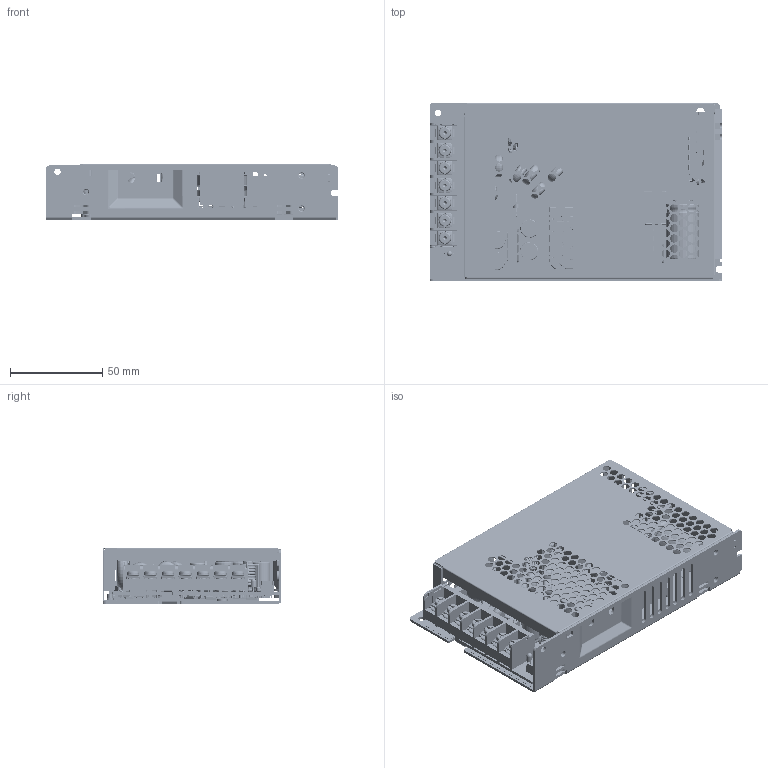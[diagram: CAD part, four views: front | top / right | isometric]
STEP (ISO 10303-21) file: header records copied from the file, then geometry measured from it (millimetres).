
FILE_DESCRIPTION((''),'2;1');
FILE_NAME('PMR-12V240W1ATR2C0_ASM','2022-12-30T13:38:47',('EUNICE.HUANG'),(''),'CREO PARAMETRIC BY PTC INC, 2020053','CREO PARAMETRIC BY PTC INC, 2020053','');
FILE_SCHEMA(('CONFIG_CONTROL_DESIGN','GEOMETRIC_VALIDATION_PROPERTIES_MIM'));
Products named in the file (478): BOARD; 242502801408; D102_ASM; D101_ASM; 3411010600; J105_ASM; 3411010700; J104_ASM; J103_ASM; J22_ASM; 3411010800; J21_ASM; J20_ASM; 3411010500; J19_ASM; J17_ASM; J14_ASM; J7_ASM; 3411010400; J6_ASM; J5_ASM; J4_ASM; J1_ASM; 1732158583; C4_ASM; 140152210128; C37_ASM; 17Z1012073; C2_ASM; 51826600R0_1; CORE-EQ3319_1; WIRE_4; WIRE-1_2; OUTERSHIELD_3; OUTERTAPE_5; 51826600R0_ASM_10_ASM_ASM; 2870741600_ASM; T1_ASM; 317-TOR18-4H_2_1; 317-TOR18-4H_2_2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
Assembly tree (689 placements, depth 12):
  PMR-12V240W1ATR2C0_ASM
    PCB_ASM
      BOARD
      D102_ASM
        242502801408
      D101_ASM
        242502801408
      J105_ASM
        3411010600
      J104_ASM
        3411010700
      J103_ASM
        3411010700
      J22_ASM
        3411010700
      J21_ASM
        3411010800
      J20_ASM
        3411010800
      J19_ASM
        3411010500
      J17_ASM
        3411010800
      J14_ASM
        3411010800
      J7_ASM
        3411010800
      J6_ASM
        3411010400
      J5_ASM
        3411010600
      J4_ASM
        3411010500
      J1_ASM
        3411010500
      C4_ASM
        1732158583
      C37_ASM
        140152210128
      C2_ASM
        17Z1012073
      T1_ASM
        2870741600_ASM
          51826600R0_ASM_10_ASM_ASM
            51826600R0_1
            CORE-EQ3319_1  x2
            WIRE_4
            WIRE-1_2
            OUTERSHIELD_3
            OUTERTAPE_5
      FL2_ASM
        2875548200_ASM
          HFV-NB20355_ASM_ASM
            317-TOR18-4H_2_ASM_ASM
              317-TOR18-4H_2_1
              317-TOR18-4H_2_2
              317-TOR18-4H_2_3
              317-TOR18-4H_2_4
              317-TOR18-4H_2_5
            TOR-18_4_ASM_ASM
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Bounding box: 159 x 97 x 30 mm (x, y, z)
Volume: 159325.1 mm3; surface area: 229023.5 mm2
Topology: 519 solids, 520 shells, 16703 faces, 43517 edges, 27746 vertices
Faces by surface type: plane 7412, cylinder 5977, torus 2368, bspline 707, sphere 171, cone 68
Entity records: 404472 total; most frequent: CARTESIAN_POINT 93823, DIRECTION 54603, ORIENTED_EDGE 48186, EDGE_CURVE 24095, AXIS2_PLACEMENT_3D 21961, PRESENTATION_STYLE_ASSIGNMENT 16043, STYLED_ITEM 15963, VERTEX_POINT 15197
